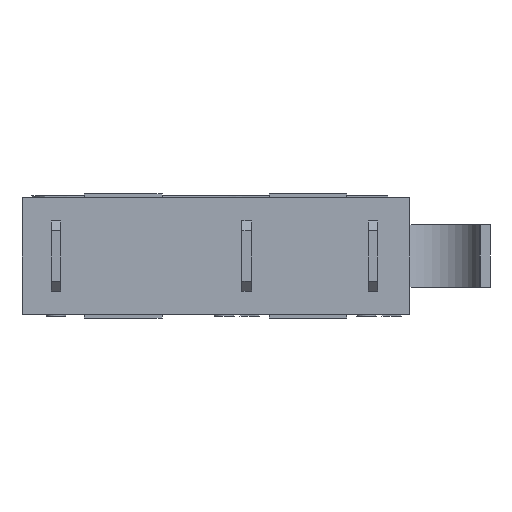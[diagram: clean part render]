
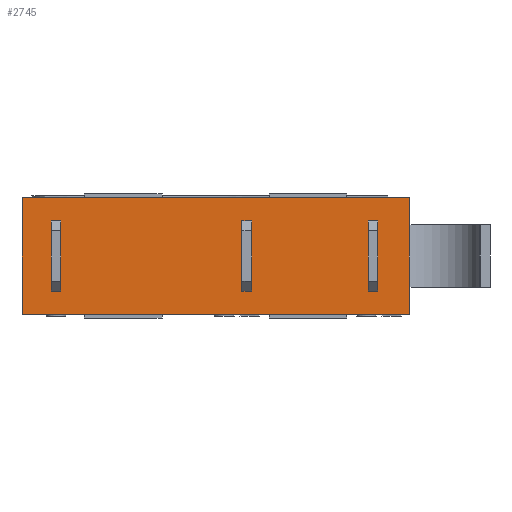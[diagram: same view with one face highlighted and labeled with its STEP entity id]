
A CAD part, front view. The second image highlights one B-rep face of the part: STEP entity #2745.
In plain terms, the highlighted planar face has unit normal (0, -1, 0).
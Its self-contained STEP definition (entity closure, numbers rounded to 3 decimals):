
#73=CARTESIAN_POINT('',(-7.95,-5.,-1.2));
#74=VERTEX_POINT('',#73);
#75=CARTESIAN_POINT('',(-7.95,-5.0,2.4));
#76=VERTEX_POINT('',#75);
#77=CARTESIAN_POINT('',(-7.95,-5.,-1.2));
#78=DIRECTION('',(0.0,0.0,1.0));
#79=VECTOR('',#78,3.6);
#80=LINE('',#77,#79);
#81=EDGE_CURVE('',#74,#76,#80,.T.);
#140=CARTESIAN_POINT('',(-8.45,-5.0,2.4));
#141=VERTEX_POINT('',#140);
#142=CARTESIAN_POINT('',(-8.45,-5.,2.4));
#143=DIRECTION('',(1.0,0.0,0.0));
#144=VECTOR('',#143,0.5);
#145=LINE('',#142,#144);
#146=EDGE_CURVE('',#141,#76,#145,.T.);
#171=CARTESIAN_POINT('',(-8.45,-5.0,-1.2));
#172=VERTEX_POINT('',#171);
#173=CARTESIAN_POINT('',(-8.45,-5.,-1.2));
#174=DIRECTION('',(1.0,0.0,0.0));
#175=VECTOR('',#174,0.5);
#176=LINE('',#173,#175);
#177=EDGE_CURVE('',#172,#74,#176,.T.);
#202=CARTESIAN_POINT('',(-8.45,-5.0,-1.2));
#203=DIRECTION('',(0.0,0.0,1.0));
#204=VECTOR('',#203,3.6);
#205=LINE('',#202,#204);
#206=EDGE_CURVE('',#172,#141,#205,.T.);
#309=CARTESIAN_POINT('',(1.85,-5.0,2.4));
#310=VERTEX_POINT('',#309);
#311=CARTESIAN_POINT('',(1.85,-5.0,-1.2));
#312=VERTEX_POINT('',#311);
#313=CARTESIAN_POINT('',(1.85,-5.0,2.4));
#314=DIRECTION('',(0.0,0.0,-1.0));
#315=VECTOR('',#314,3.6);
#316=LINE('',#313,#315);
#317=EDGE_CURVE('',#310,#312,#316,.T.);
#376=CARTESIAN_POINT('',(1.35,-5.0,2.4));
#377=VERTEX_POINT('',#376);
#378=CARTESIAN_POINT('',(1.35,-5.,2.4));
#379=DIRECTION('',(1.0,0.0,0.0));
#380=VECTOR('',#379,0.5);
#381=LINE('',#378,#380);
#382=EDGE_CURVE('',#377,#310,#381,.T.);
#407=CARTESIAN_POINT('',(1.35,-5.,-1.2));
#408=VERTEX_POINT('',#407);
#409=CARTESIAN_POINT('',(1.35,-5.,-1.2));
#410=DIRECTION('',(1.0,0.0,0.0));
#411=VECTOR('',#410,0.5);
#412=LINE('',#409,#411);
#413=EDGE_CURVE('',#408,#312,#412,.T.);
#438=CARTESIAN_POINT('',(1.35,-5.,2.4));
#439=DIRECTION('',(0.0,0.0,-1.0));
#440=VECTOR('',#439,3.6);
#441=LINE('',#438,#440);
#442=EDGE_CURVE('',#377,#408,#441,.T.);
#545=CARTESIAN_POINT('',(8.35,-5.0,2.4));
#546=VERTEX_POINT('',#545);
#547=CARTESIAN_POINT('',(8.35,-5.0,-1.2));
#548=VERTEX_POINT('',#547);
#549=CARTESIAN_POINT('',(8.35,-5.0,2.4));
#550=DIRECTION('',(0.0,0.0,-1.0));
#551=VECTOR('',#550,3.6);
#552=LINE('',#549,#551);
#553=EDGE_CURVE('',#546,#548,#552,.T.);
#612=CARTESIAN_POINT('',(7.85,-5.0,2.4));
#613=VERTEX_POINT('',#612);
#614=CARTESIAN_POINT('',(7.85,-5.,2.4));
#615=DIRECTION('',(1.0,0.0,0.0));
#616=VECTOR('',#615,0.5);
#617=LINE('',#614,#616);
#618=EDGE_CURVE('',#613,#546,#617,.T.);
#643=CARTESIAN_POINT('',(7.85,-5.,-1.2));
#644=VERTEX_POINT('',#643);
#645=CARTESIAN_POINT('',(7.85,-5.,-1.2));
#646=DIRECTION('',(1.0,0.0,0.0));
#647=VECTOR('',#646,0.5);
#648=LINE('',#645,#647);
#649=EDGE_CURVE('',#644,#548,#648,.T.);
#674=CARTESIAN_POINT('',(7.85,-5.,2.4));
#675=DIRECTION('',(0.0,0.0,-1.0));
#676=VECTOR('',#675,3.6);
#677=LINE('',#674,#676);
#678=EDGE_CURVE('',#613,#644,#677,.T.);
#1616=CARTESIAN_POINT('',(9.95,-5.0,-2.4));
#1617=VERTEX_POINT('',#1616);
#1624=CARTESIAN_POINT('',(-9.95,-5.0,-2.4));
#1625=VERTEX_POINT('',#1624);
#1626=CARTESIAN_POINT('',(-9.95,-5.0,-2.4));
#1627=DIRECTION('',(1.0,0.0,0.0));
#1628=VECTOR('',#1627,19.9);
#1629=LINE('',#1626,#1628);
#1630=EDGE_CURVE('',#1625,#1617,#1629,.T.);
#2130=CARTESIAN_POINT('',(-9.95,-5.,3.6));
#2131=VERTEX_POINT('',#2130);
#2132=CARTESIAN_POINT('',(-9.95,-5.0,-2.4));
#2133=DIRECTION('',(0.0,0.0,1.0));
#2134=VECTOR('',#2133,6.0);
#2135=LINE('',#2132,#2134);
#2136=EDGE_CURVE('',#1625,#2131,#2135,.T.);
#2704=CARTESIAN_POINT('',(9.95,-5.0,-2.4));
#2705=DIRECTION('',(0.0,-1.0,0.0));
#2706=DIRECTION('',(0.0,0.0,-1.0));
#2707=AXIS2_PLACEMENT_3D('',#2704,#2705,#2706);
#2708=PLANE('',#2707);
#2709=CARTESIAN_POINT('',(9.95,-5.,3.6));
#2710=VERTEX_POINT('',#2709);
#2711=CARTESIAN_POINT('',(9.95,-5.,-2.4));
#2712=DIRECTION('',(0.0,0.0,1.0));
#2713=VECTOR('',#2712,6.0);
#2714=LINE('',#2711,#2713);
#2715=EDGE_CURVE('',#1617,#2710,#2714,.T.);
#2716=ORIENTED_EDGE('',*,*,#2715,.T.);
#2717=CARTESIAN_POINT('',(9.95,-5.,3.6));
#2718=DIRECTION('',(-1.0,0.0,0.0));
#2719=VECTOR('',#2718,19.9);
#2720=LINE('',#2717,#2719);
#2721=EDGE_CURVE('',#2710,#2131,#2720,.T.);
#2722=ORIENTED_EDGE('',*,*,#2721,.T.);
#2723=ORIENTED_EDGE('',*,*,#2136,.F.);
#2724=ORIENTED_EDGE('',*,*,#1630,.T.);
#2725=EDGE_LOOP('',(#2716,#2722,#2723,#2724));
#2726=FACE_OUTER_BOUND('',#2725,.T.);
#2727=ORIENTED_EDGE('',*,*,#618,.T.);
#2728=ORIENTED_EDGE('',*,*,#553,.T.);
#2729=ORIENTED_EDGE('',*,*,#649,.F.);
#2730=ORIENTED_EDGE('',*,*,#678,.F.);
#2731=EDGE_LOOP('',(#2727,#2728,#2729,#2730));
#2732=FACE_BOUND('',#2731,.T.);
#2733=ORIENTED_EDGE('',*,*,#413,.F.);
#2734=ORIENTED_EDGE('',*,*,#442,.F.);
#2735=ORIENTED_EDGE('',*,*,#382,.T.);
#2736=ORIENTED_EDGE('',*,*,#317,.T.);
#2737=EDGE_LOOP('',(#2733,#2734,#2735,#2736));
#2738=FACE_BOUND('',#2737,.T.);
#2739=ORIENTED_EDGE('',*,*,#206,.T.);
#2740=ORIENTED_EDGE('',*,*,#146,.T.);
#2741=ORIENTED_EDGE('',*,*,#81,.F.);
#2742=ORIENTED_EDGE('',*,*,#177,.F.);
#2743=EDGE_LOOP('',(#2739,#2740,#2741,#2742));
#2744=FACE_BOUND('',#2743,.T.);
#2745=ADVANCED_FACE('',(#2726,#2732,#2738,#2744),#2708,.T.);
